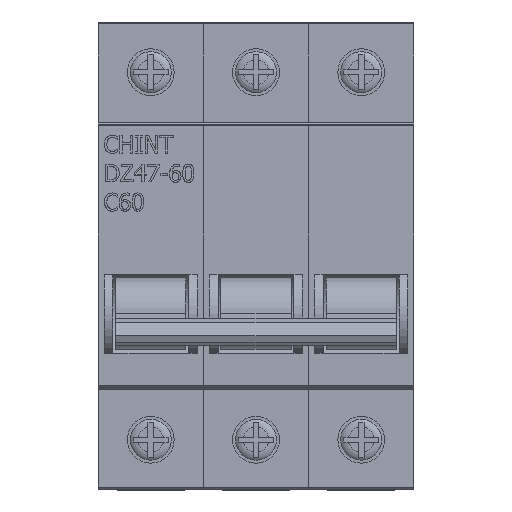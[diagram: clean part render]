
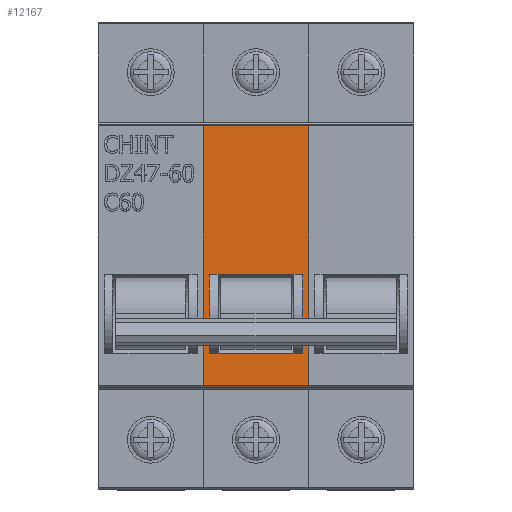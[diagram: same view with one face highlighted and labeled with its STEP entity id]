
A CAD part, top view. The second image highlights one B-rep face of the part: STEP entity #12167.
In plain terms, the highlighted planar face has unit normal (0, 0, 1).
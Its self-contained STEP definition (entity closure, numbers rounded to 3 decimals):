
#608=FACE_BOUND('',#2119,.T.);
#1285=FACE_OUTER_BOUND('',#2118,.T.);
#2118=EDGE_LOOP('',(#10040,#10041,#10042,#10043));
#2119=EDGE_LOOP('',(#10044,#10045,#10046,#10047,#10048,#10049,#10050,#10051));
#3150=LINE('',#20236,#4278);
#3156=LINE('',#20248,#4284);
#3188=LINE('',#20318,#4316);
#3257=LINE('',#20497,#4385);
#3258=LINE('',#20499,#4386);
#3259=LINE('',#20502,#4387);
#3262=LINE('',#20541,#4390);
#3265=LINE('',#20552,#4393);
#3266=LINE('',#20556,#4394);
#3267=LINE('',#20564,#4395);
#3268=LINE('',#20566,#4396);
#3271=LINE('',#20589,#4399);
#4278=VECTOR('',#14946,10.);
#4284=VECTOR('',#14956,10.);
#4316=VECTOR('',#14998,10.);
#4385=VECTOR('',#15185,10.);
#4386=VECTOR('',#15186,10.);
#4387=VECTOR('',#15191,10.);
#4390=VECTOR('',#15242,10.);
#4393=VECTOR('',#15251,10.);
#4394=VECTOR('',#15254,10.);
#4395=VECTOR('',#15265,10.);
#4396=VECTOR('',#15268,10.);
#4399=VECTOR('',#15305,10.);
#5615=VERTEX_POINT('',#20233);
#5616=VERTEX_POINT('',#20235);
#5620=VERTEX_POINT('',#20247);
#5652=VERTEX_POINT('',#20314);
#5702=VERTEX_POINT('',#20487);
#5703=VERTEX_POINT('',#20489);
#5704=VERTEX_POINT('',#20496);
#5705=VERTEX_POINT('',#20498);
#5717=VERTEX_POINT('',#20540);
#5722=VERTEX_POINT('',#20550);
#5723=VERTEX_POINT('',#20554);
#5724=VERTEX_POINT('',#20555);
#7092=EDGE_CURVE('',#5615,#5616,#3150,.T.);
#7098=EDGE_CURVE('',#5620,#5616,#3156,.T.);
#7134=EDGE_CURVE('',#5620,#5652,#3188,.T.);
#7219=EDGE_CURVE('',#5703,#5704,#3257,.T.);
#7220=EDGE_CURVE('',#5705,#5702,#3258,.T.);
#7222=EDGE_CURVE('',#5704,#5705,#3259,.T.);
#7238=EDGE_CURVE('',#5717,#5703,#3262,.T.);
#7244=EDGE_CURVE('',#5702,#5722,#3265,.T.);
#7245=EDGE_CURVE('',#5723,#5724,#3266,.T.);
#7249=EDGE_CURVE('',#5722,#5723,#3267,.T.);
#7251=EDGE_CURVE('',#5724,#5717,#3268,.T.);
#7259=EDGE_CURVE('',#5652,#5615,#3271,.T.);
#10040=ORIENTED_EDGE('',*,*,#7092,.F.);
#10041=ORIENTED_EDGE('',*,*,#7259,.F.);
#10042=ORIENTED_EDGE('',*,*,#7134,.F.);
#10043=ORIENTED_EDGE('',*,*,#7098,.T.);
#10044=ORIENTED_EDGE('',*,*,#7222,.T.);
#10045=ORIENTED_EDGE('',*,*,#7220,.T.);
#10046=ORIENTED_EDGE('',*,*,#7244,.T.);
#10047=ORIENTED_EDGE('',*,*,#7249,.T.);
#10048=ORIENTED_EDGE('',*,*,#7245,.T.);
#10049=ORIENTED_EDGE('',*,*,#7251,.T.);
#10050=ORIENTED_EDGE('',*,*,#7238,.T.);
#10051=ORIENTED_EDGE('',*,*,#7219,.T.);
#11437=PLANE('',#12997);
#12167=ADVANCED_FACE('',(#1285,#608),#11437,.T.);
#12997=AXIS2_PLACEMENT_3D('',#20588,#15303,#15304);
#14946=DIRECTION('',(-1.,0.,0.));
#14956=DIRECTION('',(0.,-1.,0.));
#14998=DIRECTION('',(1.,0.,0.));
#15185=DIRECTION('',(1.,0.,0.));
#15186=DIRECTION('',(-1.,0.,0.));
#15191=DIRECTION('',(0.,-1.,0.));
#15242=DIRECTION('',(1.,0.,0.));
#15251=DIRECTION('',(-1.,0.,0.));
#15254=DIRECTION('',(0.,1.,0.));
#15265=DIRECTION('',(-1.,0.,0.));
#15268=DIRECTION('',(1.,0.,0.));
#15303=DIRECTION('center_axis',(0.,0.,1.));
#15304=DIRECTION('ref_axis',(0.,-1.,0.));
#15305=DIRECTION('',(0.,-1.,0.));
#20233=CARTESIAN_POINT('',(36.,-17.539,28.7));
#20235=CARTESIAN_POINT('',(18.,-17.539,28.7));
#20236=CARTESIAN_POINT('',(18.,-17.539,28.7));
#20247=CARTESIAN_POINT('',(18.,26.861,28.7));
#20248=CARTESIAN_POINT('',(18.,27.161,28.7));
#20314=CARTESIAN_POINT('',(36.,26.861,28.7));
#20318=CARTESIAN_POINT('',(18.,26.861,28.7));
#20487=CARTESIAN_POINT('',(33.5,-12.013,28.7));
#20489=CARTESIAN_POINT('',(33.5,1.44,28.7));
#20496=CARTESIAN_POINT('',(35.,1.44,28.7));
#20497=CARTESIAN_POINT('',(27.,1.44,28.7));
#20498=CARTESIAN_POINT('',(35.,-12.013,28.7));
#20499=CARTESIAN_POINT('',(27.,-12.013,28.7));
#20502=CARTESIAN_POINT('',(35.,10.937,28.7));
#20540=CARTESIAN_POINT('',(20.5,1.44,28.7));
#20541=CARTESIAN_POINT('',(27.,1.44,28.7));
#20550=CARTESIAN_POINT('',(20.5,-12.013,28.7));
#20552=CARTESIAN_POINT('',(27.,-12.013,28.7));
#20554=CARTESIAN_POINT('',(19.,-12.013,28.7));
#20555=CARTESIAN_POINT('',(19.,1.44,28.7));
#20556=CARTESIAN_POINT('',(19.,10.937,28.7));
#20564=CARTESIAN_POINT('',(27.,-12.013,28.7));
#20566=CARTESIAN_POINT('',(27.,1.44,28.7));
#20588=CARTESIAN_POINT('Origin',(18.,27.161,28.7));
#20589=CARTESIAN_POINT('',(36.,27.161,28.7));
